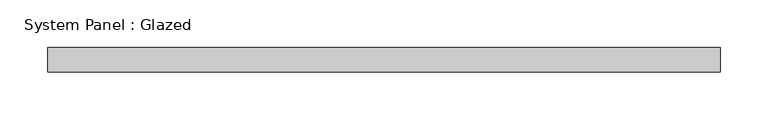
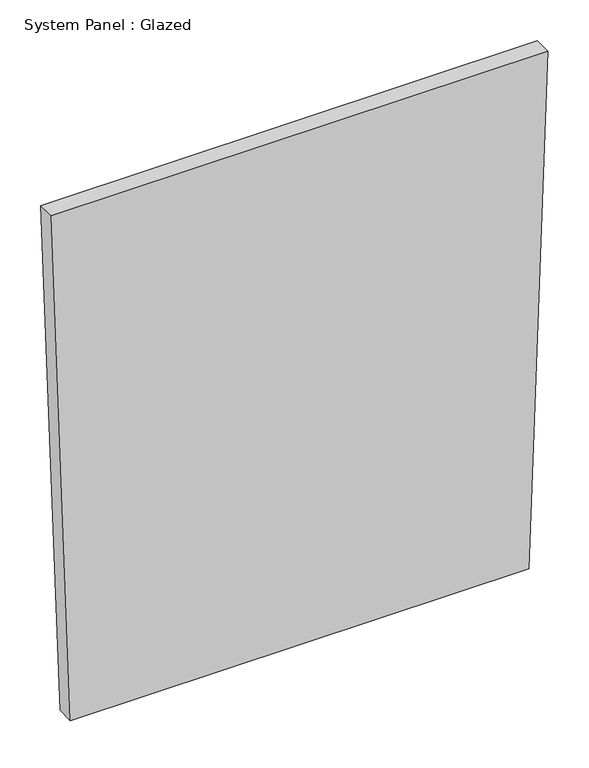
"""IFC4 building model written with IfcOpenShell, lengths in millimetres: plate geometry, System Panel : Glazed."""

from ifc_helpers import new_model, si_unit, frame, origin, place, context, project, spatial, polyline, outline, extrude, source, transform, mapped, element, save


def system_panel_glazed_60772631(model_context):
    return source(origin(), model_context, "Body", "SweptSolid", [
        extrude(outline(polyline([(0.0, -323.2013213), (0.0, 323.2013213), (761.5238602, 350.1347647), (761.5238602, -350.1347647), (0.0, -323.2013213)])), frame((0.0, -44.45, 0.0), z_axis=(0.0, 1.0, 0.0), x_axis=(0.0, 0.0, 1.0)), (0.0, 0.0, 1.0), 25.4),
    ])


if __name__ == "__main__":
    model = new_model("IFC4")
    model_context = context("Model", 3, world=origin())
    ifc_project = project(units=[si_unit("LENGTHUNIT", "METRE", prefix="MILLI")], contexts=[model_context])
    site = spatial("IfcSite", under=ifc_project)
    building = spatial("IfcBuilding", under=site)
    placement = place(None, origin())
    system_panel_glazed_shape = system_panel_glazed_60772631(model_context)
    element("IfcPlate", 1, ObjectType="System Panel : Glazed", at=placement, inside=building, context=model_context, shape_type="MappedRepresentation", body=[
        mapped(system_panel_glazed_shape, transform((0.0, 0.0, 0.0), x_axis=(1.0, 0.0, 0.0), y_axis=(0.0, 1.0, 0.0), z_axis=(0.0, 0.0, 1.0))),
    ])
    save(model, "model.ifc")
